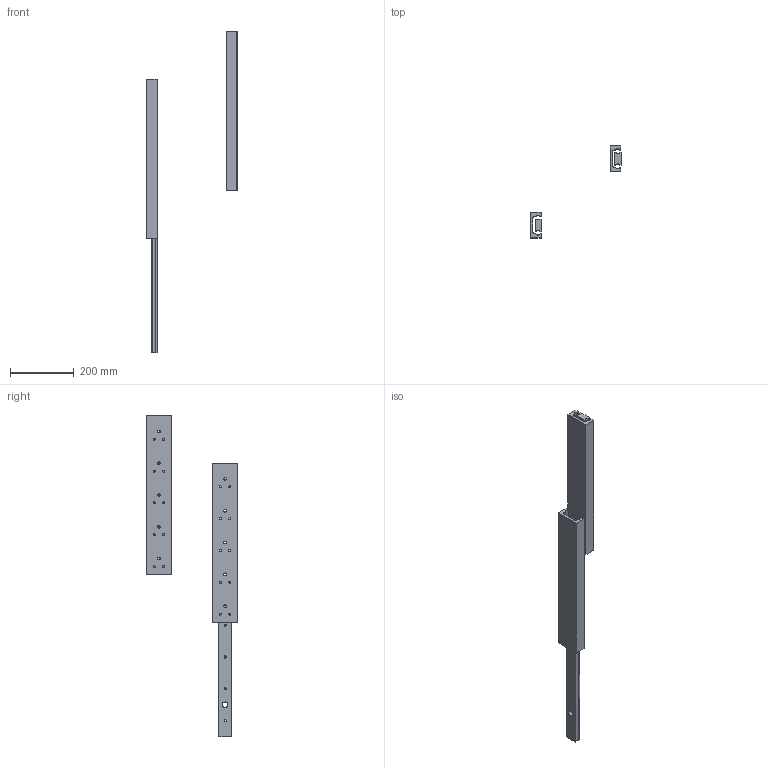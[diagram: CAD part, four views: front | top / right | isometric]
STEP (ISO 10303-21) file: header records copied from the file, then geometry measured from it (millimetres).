
FILE_DESCRIPTION((''),'2;1');
FILE_NAME('D:\01 WORK\DIST\02172A-Drawings for website\4120\STEP\DA4120-0050.stp','2008-10-20T12:31:25',('jtaylor'),(''),'Autodesk Inventor 2009','Autodesk Inventor 2009','');
FILE_SCHEMA(('AUTOMOTIVE_DESIGN { 1 0 10303 214 1 1 1 1 }'));
Length unit declared in the file: millimetre
Products named in the file (3): DA4120-0050; DA4120-0050 OM; DA4120-0050 IM
Assembly tree (4 placements, depth 2):
  DA4120-0050
    DA4120-0050 OM  x2
    DA4120-0050 IM  x2
Bounding box: 286.91 x 288.31 x 1009.55 mm (x, y, z)
Volume: 1959068.8 mm3; surface area: 420810.6 mm2
Topology: 4 solids, 4 shells, 104 faces, 320 edges, 224 vertices
Faces by surface type: bspline 52, plane 40, cylinder 12
Entity records: 2032 total; most frequent: CARTESIAN_POINT 705, DIRECTION 238, ORIENTED_EDGE 226, EDGE_LOOP 120, EDGE_CURVE 113, AXIS2_PLACEMENT_3D 92, VERTEX_POINT 91, FACE_BOUND 68
